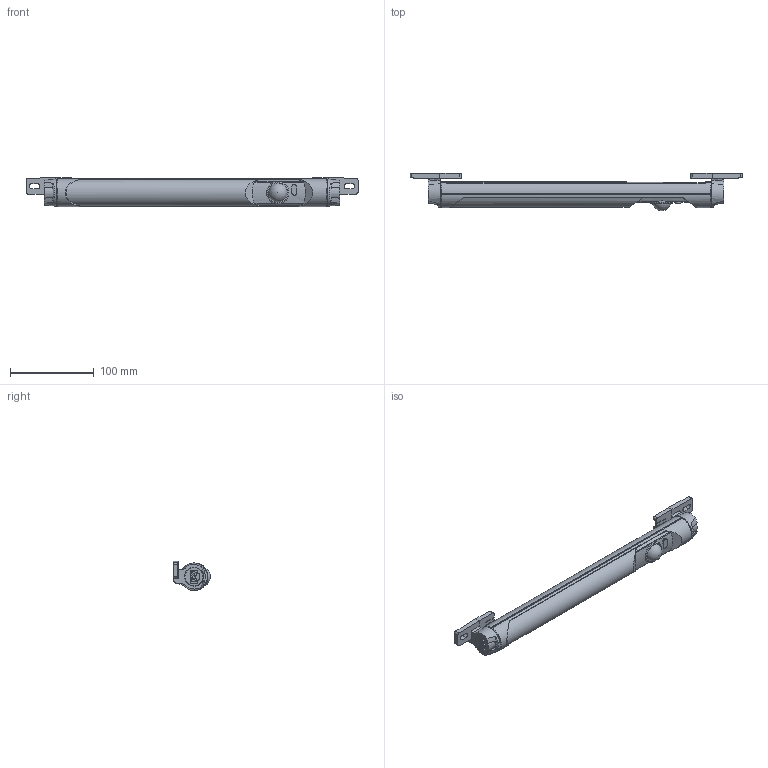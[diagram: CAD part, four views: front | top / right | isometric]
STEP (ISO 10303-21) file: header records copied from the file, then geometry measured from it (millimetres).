
FILE_DESCRIPTION(/* description */ ('STEP AP214'),/* implementation_level */ '2;1');
FILE_NAME(/* name */ 'CEL550M(1)',/* time_stamp */ '2022-06-27T23:08:39+02:00',/* author */ ('License CC BY-ND 4.0'),/* organization */ ('CADENAS'),/* preprocessor_version */ 'ST-DEVELOPER v18.102',/* originating_system */ 'PARTsolutions',/* authorisation */ ' ');
FILE_SCHEMA (('AUTOMOTIVE_DESIGN {1 0 10303 214 3 1 1}'));
Length unit declared in the file: millimetre
Products named in the file (1): CEL550M(1)
Bounding box: 396 x 44.48 x 34.7 mm (x, y, z)
Volume: 271778.2 mm3; surface area: 68280.8 mm2
Topology: 1 solids, 1 shells, 466 faces, 1304 edges, 863 vertices
Faces by surface type: plane 275, cylinder 158, torus 11, bspline 10, cone 7, sphere 5
Full cylindrical faces by diameter (mm): 2 x4, 2.8 x2, 22 x2, 22.47 x2
Entity records: 15081 total; most frequent: CARTESIAN_POINT 3062, ORIENTED_EDGE 2520, DIRECTION 2494, EDGE_CURVE 1260, AXIS2_PLACEMENT_3D 855, VERTEX_POINT 844, LINE 784, VECTOR 784
